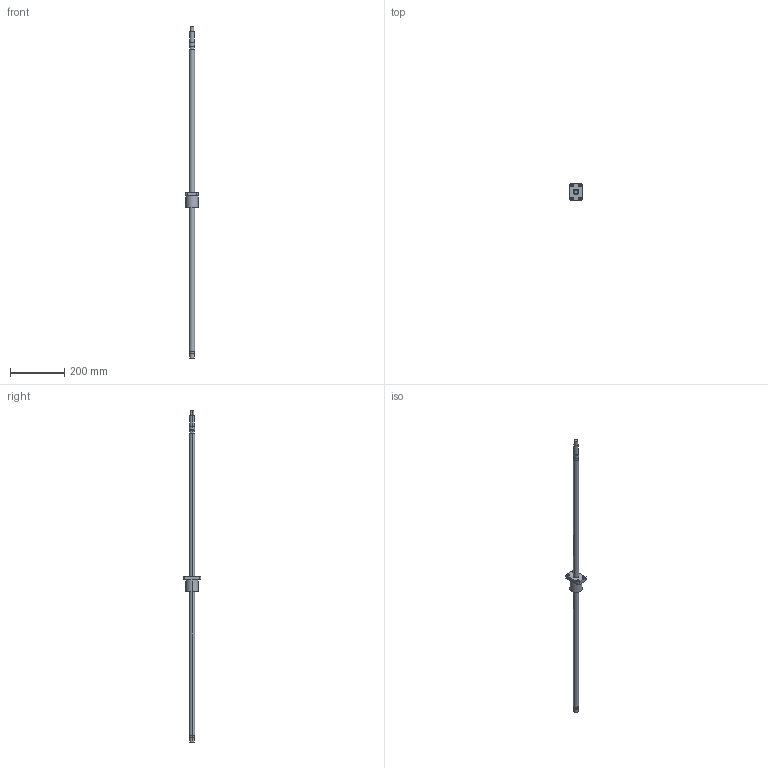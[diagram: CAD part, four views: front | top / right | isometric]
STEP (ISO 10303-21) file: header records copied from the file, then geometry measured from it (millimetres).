
FILE_DESCRIPTION((''),'2;1');
FILE_NAME('R20-20K2-FSC-1110-1220','2008-04-03T',('wcwu'),(''),'PRO/ENGINEER BY PARAMETRIC TECHNOLOGY CORPORATION, 2005070','PRO/ENGINEER BY PARAMETRIC TECHNOLOGY CORPORATION, 2005070','');
FILE_SCHEMA(('CONFIG_CONTROL_DESIGN'));
Length unit declared in the file: millimetre
Products named in the file (1): R20-20K2-FSC-1110-1220
Bounding box: 46 x 66 x 1220 mm (x, y, z)
Volume: 459702.1 mm3; surface area: 87877.5 mm2
Topology: 1 solids, 1 shells, 65 faces, 146 edges, 96 vertices
Faces by surface type: cylinder 40, plane 25
Entity records: 1906 total; most frequent: DIRECTION 360, CARTESIAN_POINT 307, ORIENTED_EDGE 292, AXIS2_PLACEMENT_3D 149, EDGE_CURVE 146, VERTEX_POINT 96, EDGE_LOOP 86, CIRCLE 84
